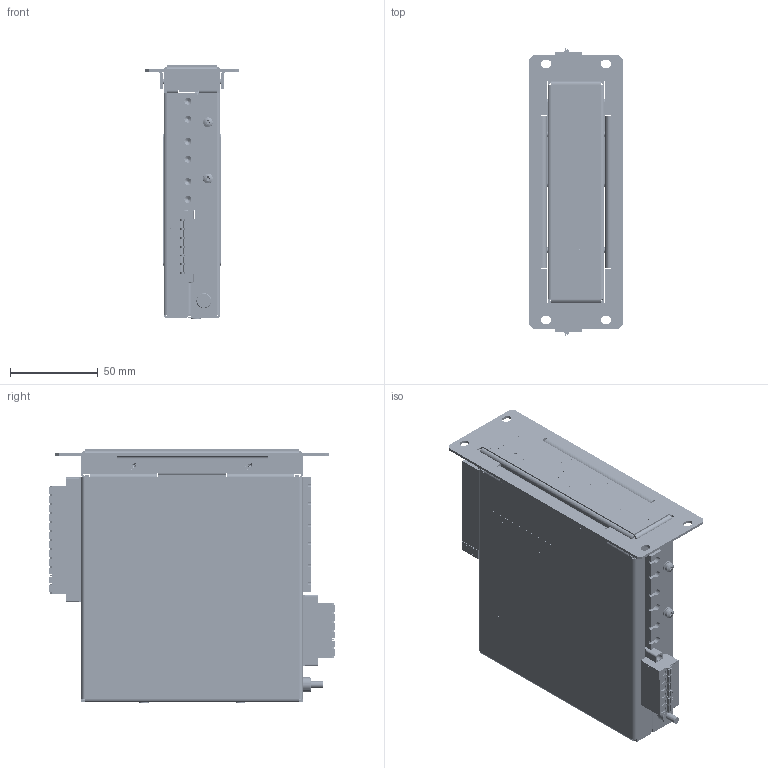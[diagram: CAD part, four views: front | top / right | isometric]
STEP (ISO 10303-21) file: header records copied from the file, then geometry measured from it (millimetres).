
FILE_DESCRIPTION(('STEP AP214'), '1');
FILE_NAME('ﾒﾐﾁﾍ.656112.002-01 - ﾊﾈﾒ-ﾇﾄﾇ', '', ('UNSPECIFIED'), ('UNSPECIFIED'), 'C3D Converter', 'C3D Toolkit', '');
FILE_SCHEMA(('AUTOMOTIVE_DESIGN { 1 0 10303 214 3 1 1}'));
Length unit declared in the file: millimetre
Products named in the file (41): ТРБН.656112.002-01; ТРБН.745535.002; ТРБН.301739.001; ТРБН.745535.003; ТРБН.301261.002; ТРБН.745513.001; ЮПИЯ.713361.002-16; ТРБН.741136.001; ТРБН.745112.001; ТРБН.434416.028; ТРБН.754342.009-01; ТРБН.754342.010; ТРБН.434416.029; ТРБН.754342.001-01; ТРБН.754342.010-01; ТРБН.754342.006; ТРБН.754312.002; XM3; 691317510012; 6913175100xx_PIN; 6913175100xx_INSERT; XM4; 691317510006
Assembly tree (74 placements, depth 4):
  ТРБН.656112.002-01
    ТРБН.745535.002
    ТРБН.301739.001
      ТРБН.745535.003
      (unnamed)  x3
      (unnamed)
      (unnamed)  x2
      (unnamed)  x2
    ТРБН.301261.002
      ТРБН.745513.001
      (unnamed)  x2
      (unnamed)  x2
      ЮПИЯ.713361.002-16
    ТРБН.741136.001
    ТРБН.745112.001
    (unnamed)  x4
    ТРБН.434416.028
      (unnamed)
      ТРБН.754342.009-01
      ТРБН.754342.010
    ТРБН.434416.029
      (unnamed)
      ТРБН.754342.001-01
      ТРБН.754342.010-01
    (unnamed)
    (unnamed)
    ТРБН.754342.006
    ТРБН.754312.002
    (unnamed)  x2
    (unnamed)  x2
    (unnamed)  x2
    (unnamed)  x2
    (unnamed)
    XM3
      691317510012
        6913175100xx_PIN  x12
        6913175100xx_INSERT
        6913175100xx_INSERT
        691317510012
    XM4
      691317510006
        6913175100xx_PIN  x6
        6913175100xx_INSERT
        6913175100xx_INSERT
        691317510006
    (unnamed)
Bounding box: 53 x 163.1 x 144.15 mm (x, y, z)
Volume: 112588.8 mm3; surface area: 178687.4 mm2
Topology: 66 solids, 66 shells, 21835 faces, 62872 edges, 41710 vertices
Faces by surface type: plane 13278, cylinder 4875, extrusion 3526, cone 87, torus 48, bspline 18, sphere 3
Full cylindrical faces by diameter (mm): 0.243 x8, 0.482 x8, 1.8 x5, 1.9 x1, 2.459 x8, 2.5 x4, 2.6 x8, 2.75 x18, 3 x16, 3.2 x6, 3.242 x1, 3.3 x18, 3.5 x9, 3.85 x4, 3.9 x6, 4 x24, 4.2 x16, 4.5 x1, 4.6 x4, 5 x8, 5.5 x6, 5.6 x4, 6 x2, 6.35 x8, 7.25 x1, 7.948 x1, 8 x1, 8.5 x1, 8.897 x1, 9 x1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
Entity records: 867272 total; most frequent: CARTESIAN_POINT 149137, ORIENTED_EDGE 122354, DIRECTION 102773, EDGE_CURVE 61177, VECTOR 47763, LINE 44237, VERTEX_POINT 40783, AXIS2_PLACEMENT_3D 27505
